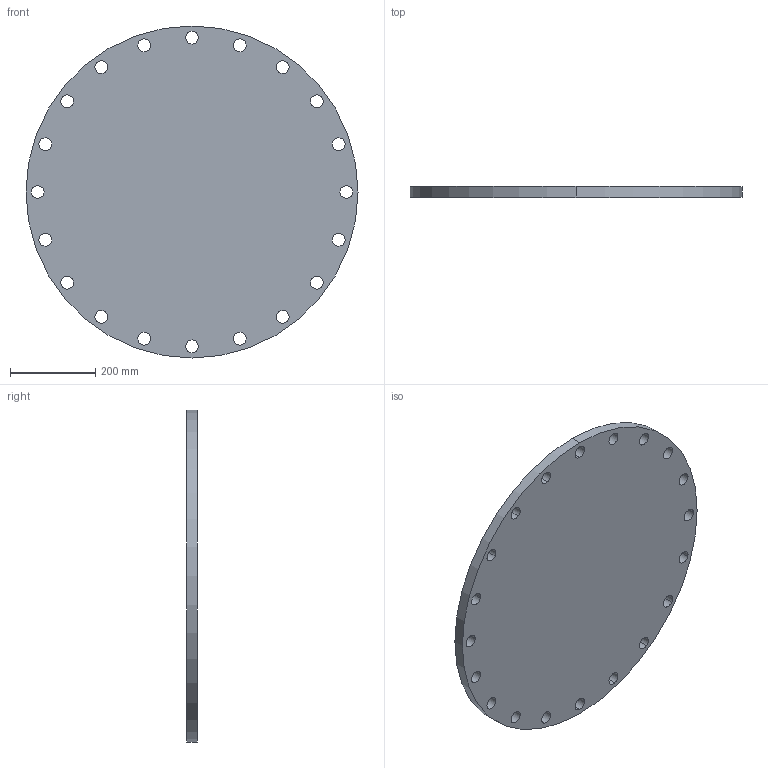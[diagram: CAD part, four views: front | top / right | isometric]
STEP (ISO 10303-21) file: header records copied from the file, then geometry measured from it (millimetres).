
FILE_DESCRIPTION (( 'STEP AP203' ), '1' );
FILE_NAME ('3D_R187_PN10_DN600_176661270_176662270.STEP', '2024-07-10T09:40:08', ( '' ), ( '' ), 'SwSTEP 2.0', 'SolidWorks 2024', '' );
FILE_SCHEMA (( 'CONFIG_CONTROL_DESIGN' ));
Length unit declared in the file: millimetre
Products named in the file (1): 3D_R187_PN10_DN600_176661270_176662270
Bounding box: 780 x 25 x 780 mm (x, y, z)
Volume: 11592476.9 mm3; surface area: 1035783.1 mm2
Topology: 1 solids, 1 shells, 44 faces, 126 edges, 84 vertices
Faces by surface type: cylinder 42, plane 2
Entity records: 1651 total; most frequent: DIRECTION 300, CARTESIAN_POINT 255, ORIENTED_EDGE 252, AXIS2_PLACEMENT_3D 129, EDGE_CURVE 126, CIRCLE 84, VERTEX_POINT 84, EDGE_LOOP 84
